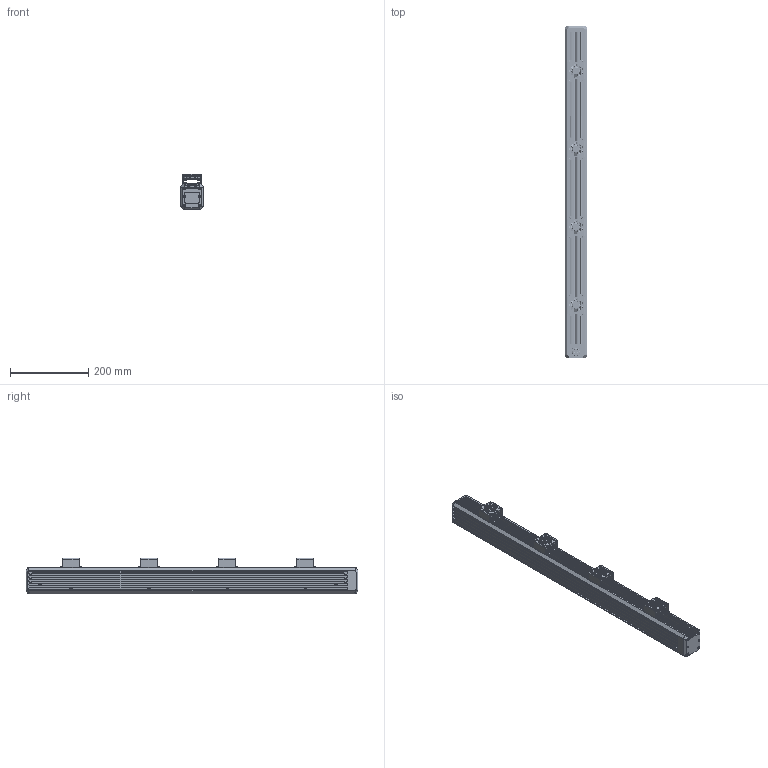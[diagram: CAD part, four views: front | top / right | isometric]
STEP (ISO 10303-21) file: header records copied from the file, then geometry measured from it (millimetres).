
FILE_DESCRIPTION((''),'2;1');
FILE_NAME('MV-LTDS-H-800-W','2022-09-02T16:49:22',('huguozhe'),(''),'CREO PARAMETRIC BY PTC INC, 2020044','CREO PARAMETRIC BY PTC INC, 2020044','');
FILE_SCHEMA(('AUTOMOTIVE_DESIGN { 1 0 10303 214 1 1 1 1 }'));
Products named in the file (1): MV-LTDS-H-800-W
Bounding box: 58 x 850 x 90.6 mm (x, y, z)
Volume: 2359843.8 mm3; surface area: 659906 mm2
Topology: 1 solids, 237 shells, 4869 faces, 12659 edges, 7882 vertices
Faces by surface type: plane 2358, cylinder 1617, cone 592, torus 248, bspline 54
Entity records: 176011 total; most frequent: CARTESIAN_POINT 34274, DIRECTION 26296, ORIENTED_EDGE 24170, EDGE_CURVE 12371, AXIS2_PLACEMENT_3D 9993, VERTEX_POINT 7882, VECTOR 6310, LINE 6310
